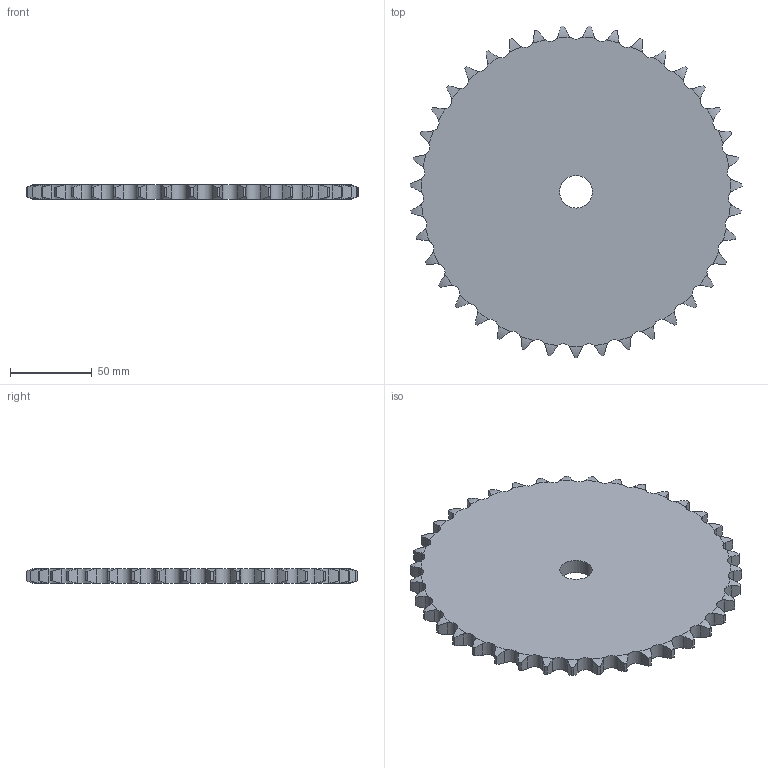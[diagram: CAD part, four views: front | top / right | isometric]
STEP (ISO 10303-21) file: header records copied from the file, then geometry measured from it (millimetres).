
FILE_DESCRIPTION((''),'2;1');
FILE_NAME('500-301-0039_PRT','2021-02-12T',('Brieden'),('Brieden'),'PRO/ENGINEER BY PARAMETRIC TECHNOLOGY CORPORATION, 2010160','PRO/ENGINEER BY PARAMETRIC TECHNOLOGY CORPORATION, 2010160','');
FILE_SCHEMA(('AUTOMOTIVE_DESIGN { 1 0 10303 214 1 1 1 1 }'));
Length unit declared in the file: millimetre
Products named in the file (1): 500-301-0039_PRT
Bounding box: 203.55 x 203.38 x 9.1 mm (x, y, z)
Volume: 263209.9 mm3; surface area: 66663.3 mm2
Topology: 1 solids, 1 shells, 238 faces, 708 edges, 472 vertices
Faces by surface type: cylinder 158, torus 78, plane 2
Entity records: 11683 total; most frequent: CARTESIAN_POINT 3480, ORIENTED_EDGE 1416, DIRECTION 1110, PRESENTATION_STYLE_ASSIGNMENT 709, STYLED_ITEM 709, CURVE_STYLE 708, EDGE_CURVE 708, AXIS2_PLACEMENT_3D 476
